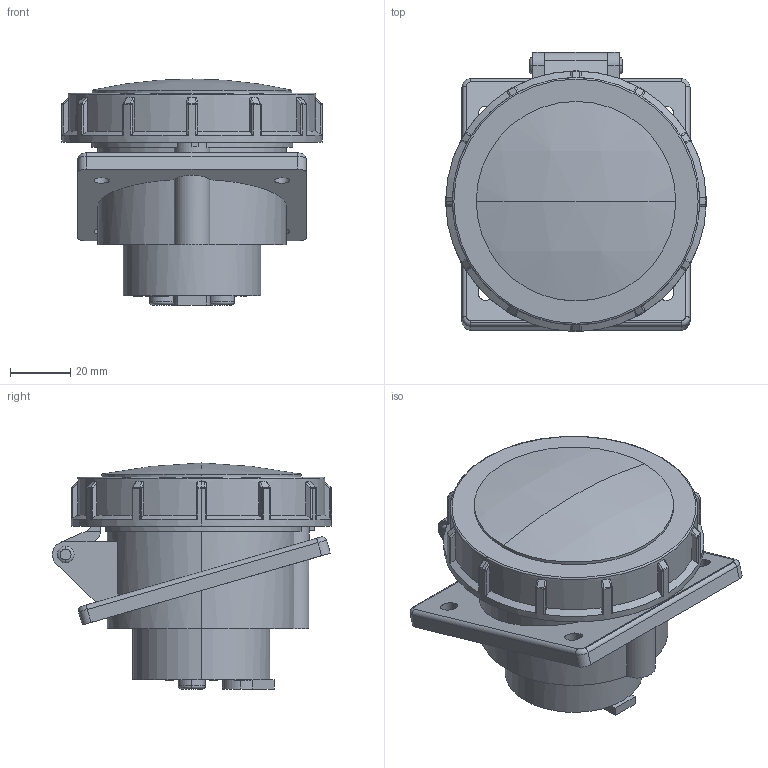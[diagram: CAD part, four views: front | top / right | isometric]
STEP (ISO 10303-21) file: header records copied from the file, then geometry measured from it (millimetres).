
FILE_DESCRIPTION (( 'STEP AP203' ), '1' );
FILE_NAME ('Ðîçåòêà ñòàöèîíàðíàÿ âíóòðåííÿÿ óãëîâàÿ 4152 (ps-4152-16-380).STEP', '2018-09-04T07:04:12', ( '' ), ( '' ), 'SwSTEP 2.0', 'SolidWorks 2017', '' );
FILE_SCHEMA (( 'CONFIG_CONTROL_DESIGN' ));
Length unit declared in the file: millimetre
Products named in the file (4): 扻豵鵨 4152; 崶錒艜; Êðûøêà 4152; Ðîçåòêà ñòàöèîíàðíàÿ âíóòðåííÿÿ óãëîâàÿ 4152 (ps-4152-16-380)
Assembly tree (3 placements, depth 2):
  Ðîçåòêà ñòàöèîíàðíàÿ âíóòðåííÿÿ óãëîâàÿ 4152 (ps-4152-16-380)
    扻豵鵨 4152
    Êðûøêà 4152
    崶錒艜
Bounding box: 86.8 x 93 x 75.3 mm (x, y, z)
Volume: 204469.5 mm3; surface area: 65992.4 mm2
Topology: 3 solids, 3 shells, 453 faces, 1153 edges, 730 vertices
Faces by surface type: plane 182, cylinder 122, bspline 57, sphere 38, cone 27, torus 27
Entity records: 15821 total; most frequent: CARTESIAN_POINT 4855, ORIENTED_EDGE 2258, DIRECTION 2139, EDGE_CURVE 1129, AXIS2_PLACEMENT_3D 796, VERTEX_POINT 718, VECTOR 547, LINE 547
